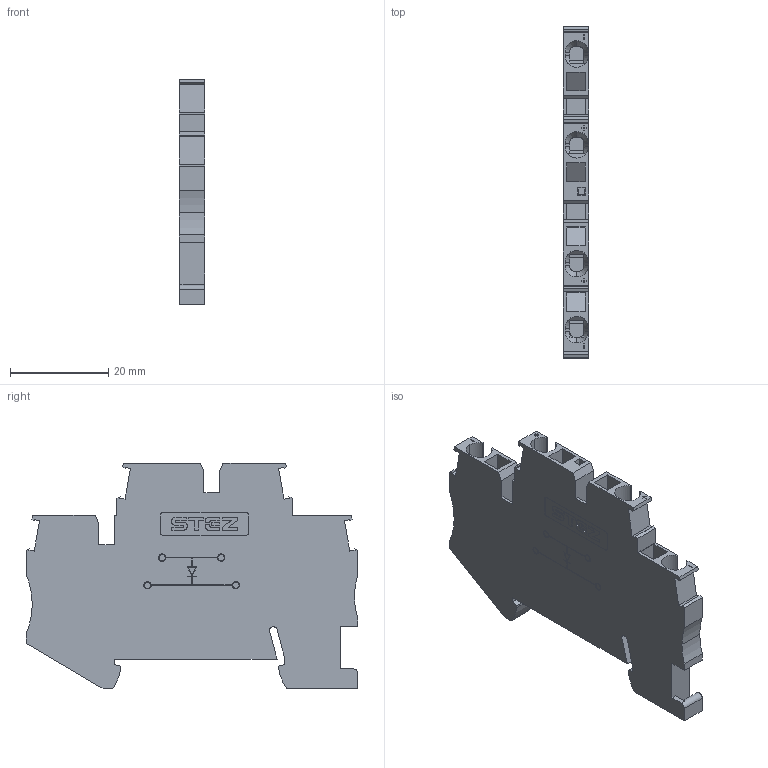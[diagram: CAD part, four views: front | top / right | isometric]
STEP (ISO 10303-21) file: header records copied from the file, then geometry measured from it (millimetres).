
FILE_DESCRIPTION(('TFLEX Exchange Step'),'2;1');
FILE_NAME('10200073 КНЗ 2,5-2-Д В-Н.stp', '2024-02-27T16:57:22+03:00',('APolyakov'),('Unknown organisation'),'TFLEX Exchange 2023.2','T-FLEX CAD','Unknown authorisation');
FILE_SCHEMA( ('AUTOMOTIVE_DESIGN { 1 0 10303 214 1 1 1 1 }') );
Length unit declared in the file: millimetre
Products named in the file (1): Тело_1:1
Bounding box: 5.15 x 67.55 x 45.85 mm (x, y, z)
Volume: 10419.1 mm3; surface area: 7662.4 mm2
Topology: 1 solids, 1 shells, 515 faces, 1457 edges, 966 vertices
Faces by surface type: plane 283, cylinder 216, cone 16
Entity records: 17840 total; most frequent: CARTESIAN_POINT 4192, ORIENTED_EDGE 2914, DIRECTION 2829, EDGE_CURVE 1457, VERTEX_POINT 966, AXIS2_PLACEMENT_3D 945, VECTOR 939, LINE 939
